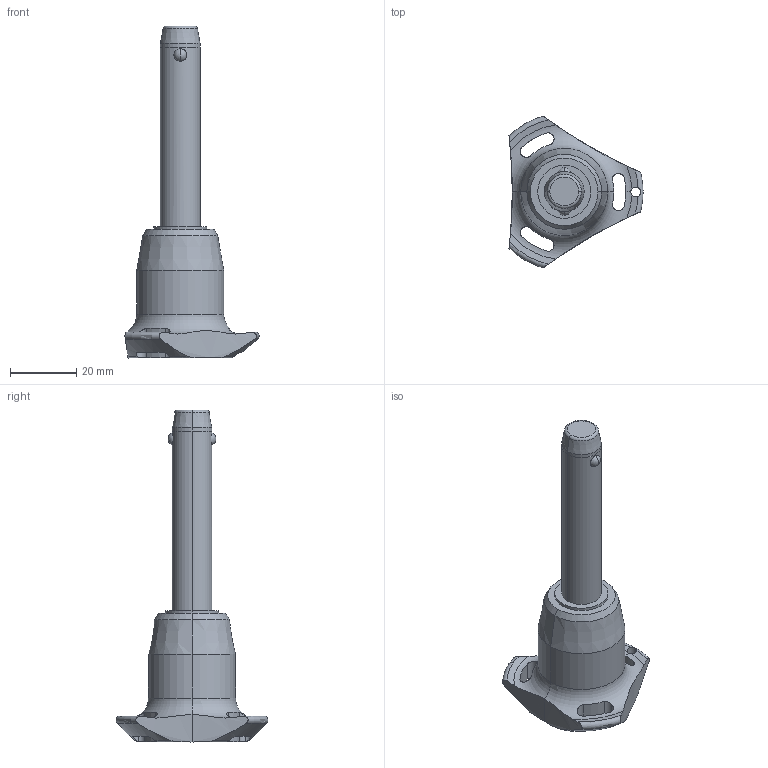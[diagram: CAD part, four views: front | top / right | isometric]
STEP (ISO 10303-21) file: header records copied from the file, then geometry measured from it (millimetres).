
FILE_DESCRIPTION (( 'STEP AP203' ), '1' );
FILE_NAME ('QR1736.M12-050-T.step', '2025-11-13T12:02:58', ( '' ), ( '' ), 'SwSTEP 2.0', 'SolidWorks 2019', '' );
FILE_SCHEMA (( 'CONFIG_CONTROL_DESIGN' ));
Length unit declared in the file: millimetre
Products named in the file (1): QR1736.M12-050-T
Bounding box: 40.5 x 45.88 x 100.3 mm (x, y, z)
Volume: 28789.6 mm3; surface area: 8222.8 mm2
Topology: 1 solids, 1 shells, 68 faces, 184 edges, 117 vertices
Faces by surface type: cylinder 32, cone 14, torus 11, sphere 6, plane 5
Entity records: 2942 total; most frequent: CARTESIAN_POINT 1186, ORIENTED_EDGE 368, DIRECTION 345, EDGE_CURVE 184, AXIS2_PLACEMENT_3D 154, VERTEX_POINT 117, CIRCLE 85, EDGE_LOOP 75
